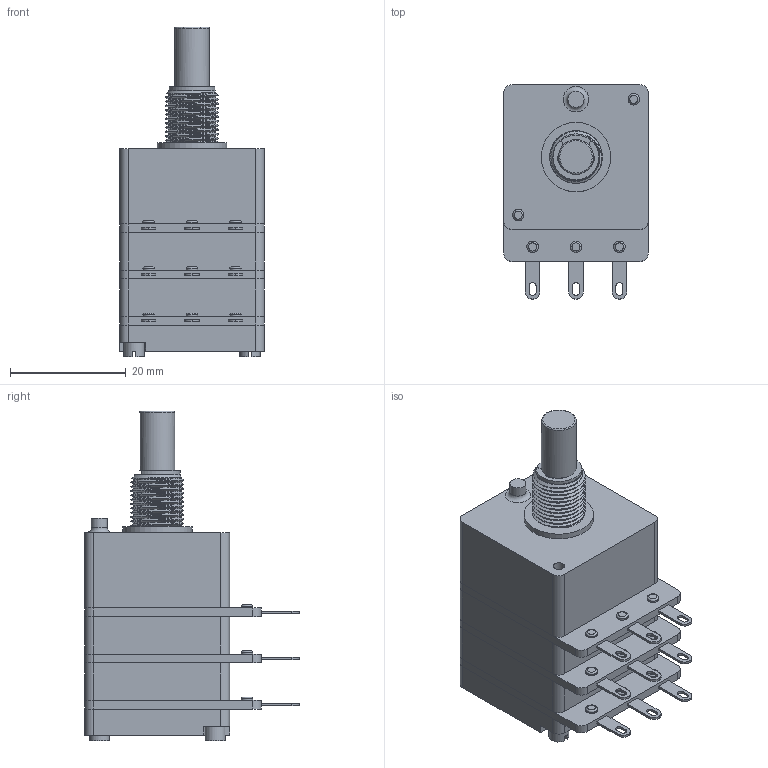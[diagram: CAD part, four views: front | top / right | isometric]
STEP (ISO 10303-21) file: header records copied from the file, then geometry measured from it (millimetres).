
FILE_DESCRIPTION(('FreeCAD Model'),'2;1');
FILE_NAME('Open CASCADE Shape Model','2023-03-21T15:38:44',(''),(''), 'Open CASCADE STEP processor 7.6','FreeCAD','Unknown');
FILE_SCHEMA(('AUTOMOTIVE_DESIGN { 1 0 10303 214 1 1 1 1 }'));
Length unit declared in the file: millimetre
Products named in the file (1): Fusion022
Bounding box: 25 x 37 x 57 mm (x, y, z)
Volume: 23261.8 mm3; surface area: 7543.4 mm2
Topology: 1 solids, 16 shells, 379 faces, 839 edges, 522 vertices
Faces by surface type: plane 185, cylinder 139, bspline 38, torus 11, cone 6
Full cylindrical faces by diameter (mm): 1.9 x6, 2 x25, 2.2 x10, 2.8 x1, 3.5 x2, 4.5 x3, 5.4 x1, 6 x1, 6.05 x1, 8 x1, 9.09 x11, 12 x1
Entity records: 30831 total; most frequent: CARTESIAN_POINT 13342, DIRECTION 2908, ORIENTED_EDGE 1676, PCURVE 1676, DEFINITIONAL_REPRESENTATION 1676, LINE 1450, VECTOR 1450, EDGE_CURVE 838
